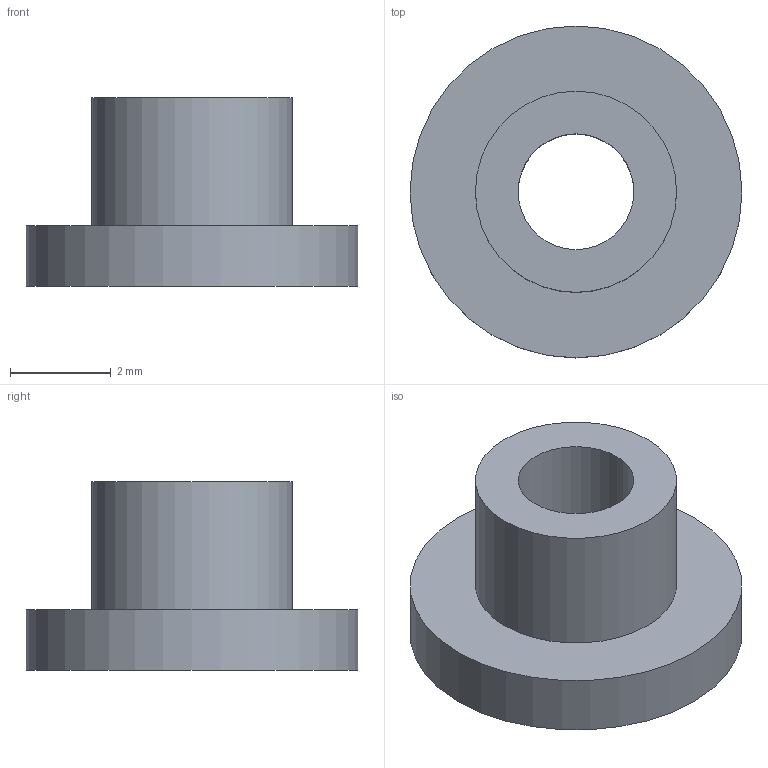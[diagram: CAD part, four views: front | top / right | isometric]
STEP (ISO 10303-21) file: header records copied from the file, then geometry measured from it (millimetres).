
FILE_DESCRIPTION(/* description */ (''),/* implementation_level */ '2;1');
FILE_NAME(/* name */ 'PTT_Pivot_sleeve_moving_2.step',/* time_stamp */ '2026-09-21T11:02:59-07:00',/* author */ (''),/* organization */ (''),/* preprocessor_version */ 'ST-DEVELOPER v20.2',/* originating_system */ 'Autodesk Translation Framework v15.15.0.0',/* authorisation */ '');
FILE_SCHEMA (('AUTOMOTIVE_DESIGN { 1 0 10303 214 3 1 1 }'));
Length unit declared in the file: millimetre
Products named in the file (1): 2026-09-21-11-02-59-550
Bounding box: 6.6 x 6.6 x 3.75 mm (x, y, z)
Volume: 57.5 mm3; surface area: 144.1 mm2
Topology: 1 solids, 1 shells, 6 faces, 9 edges, 6 vertices
Faces by surface type: cylinder 3, plane 3
Full cylindrical faces by diameter (mm): 2.3 x1, 4 x1, 6.6 x1
Entity records: 176 total; most frequent: DIRECTION 29, CARTESIAN_POINT 22, ORIENTED_EDGE 18, AXIS2_PLACEMENT_3D 13, EDGE_LOOP 9, EDGE_CURVE 9, FACE_OUTER_BOUND 6, CIRCLE 6
